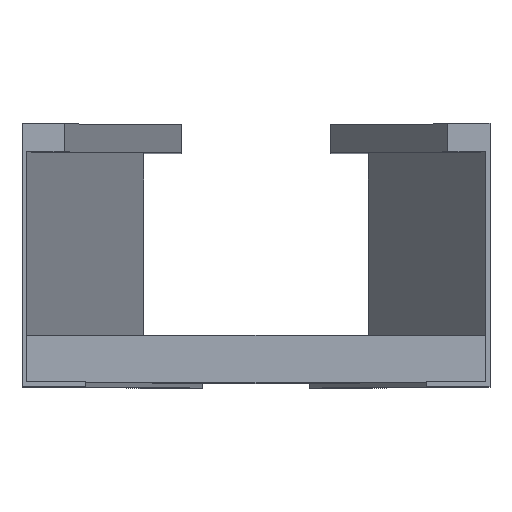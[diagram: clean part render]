
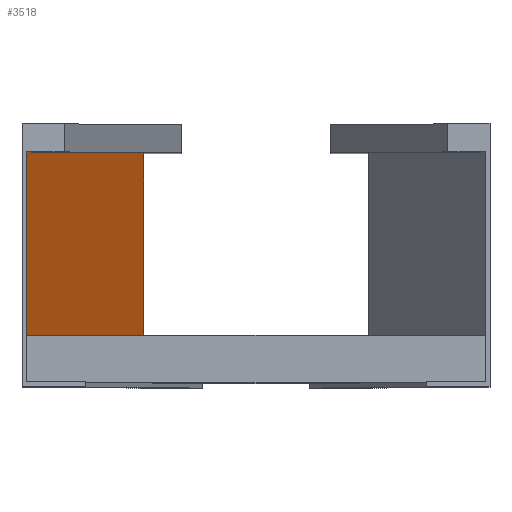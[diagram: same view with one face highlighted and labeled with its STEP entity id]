
A CAD part, top view. The second image highlights one B-rep face of the part: STEP entity #3518.
In plain terms, the highlighted planar face has unit normal (0.979, 0, 0.204).
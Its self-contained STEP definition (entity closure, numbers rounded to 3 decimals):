
#47 = EDGE_LOOP ( 'NONE', ( #3256, #400, #3689, #680 ) ) ;
#123 = EDGE_CURVE ( 'NONE', #1234, #1991, #607, .T. ) ;
#197 = CARTESIAN_POINT ( 'NONE',  ( 2., 2., -179.794 ) ) ;
#340 = CARTESIAN_POINT ( 'NONE',  ( 2., 100.5, -179.794 ) ) ;
#400 = ORIENTED_EDGE ( 'NONE', *, *, #3076, .T. ) ;
#445 = DIRECTION ( 'NONE',  ( 0.204, 0., -0.979 ) ) ;
#607 = LINE ( 'NONE', #1521, #2336 ) ;
#680 = ORIENTED_EDGE ( 'NONE', *, *, #123, .F. ) ;
#737 = CARTESIAN_POINT ( 'NONE',  ( 1.958, 100.5, -179.592 ) ) ;
#753 = CARTESIAN_POINT ( 'NONE',  ( 1.958, 2., -179.592 ) ) ;
#758 = DIRECTION ( 'NONE',  ( 0.204, 0., -0.979 ) ) ;
#896 = CARTESIAN_POINT ( 'NONE',  ( 1.958, 100.5, -179.592 ) ) ;
#937 = VECTOR ( 'NONE', #3274, 1000. ) ;
#1008 = VECTOR ( 'NONE', #445, 1000. ) ;
#1070 = CARTESIAN_POINT ( 'NONE',  ( 52., 2., -419.794 ) ) ;
#1154 = VERTEX_POINT ( 'NONE', #340 ) ;
#1234 = VERTEX_POINT ( 'NONE', #1706 ) ;
#1255 = VERTEX_POINT ( 'NONE', #197 ) ;
#1443 = CARTESIAN_POINT ( 'NONE',  ( 2., 100.5, -179.794 ) ) ;
#1521 = CARTESIAN_POINT ( 'NONE',  ( 52., 100.5, -419.794 ) ) ;
#1667 = LINE ( 'NONE', #737, #2409 ) ;
#1706 = CARTESIAN_POINT ( 'NONE',  ( 52., 100.5, -419.794 ) ) ;
#1787 = DIRECTION ( 'NONE',  ( -0.204, 0., 0.979 ) ) ;
#1825 = PLANE ( 'NONE',  #2293 ) ;
#1968 = LINE ( 'NONE', #753, #1008 ) ;
#1991 = VERTEX_POINT ( 'NONE', #1070 ) ;
#2169 = DIRECTION ( 'NONE',  ( -0.979, 0., -0.204 ) ) ;
#2293 = AXIS2_PLACEMENT_3D ( 'NONE', #896, #2169, #1787 ) ;
#2336 = VECTOR ( 'NONE', #3917, 1000. ) ;
#2409 = VECTOR ( 'NONE', #758, 1000. ) ;
#2541 = EDGE_CURVE ( 'NONE', #1154, #1234, #1667, .T. ) ;
#3076 = EDGE_CURVE ( 'NONE', #1154, #1255, #3899, .T. ) ;
#3256 = ORIENTED_EDGE ( 'NONE', *, *, #2541, .F. ) ;
#3274 = DIRECTION ( 'NONE',  ( 0., -1., 0. ) ) ;
#3320 = FACE_OUTER_BOUND ( 'NONE', #47, .T. ) ;
#3518 = ADVANCED_FACE ( 'NONE', ( #3320 ), #1825, .F. ) ;
#3689 = ORIENTED_EDGE ( 'NONE', *, *, #3859, .T. ) ;
#3859 = EDGE_CURVE ( 'NONE', #1255, #1991, #1968, .T. ) ;
#3899 = LINE ( 'NONE', #1443, #937 ) ;
#3917 = DIRECTION ( 'NONE',  ( 0., -1., 0. ) ) ;
